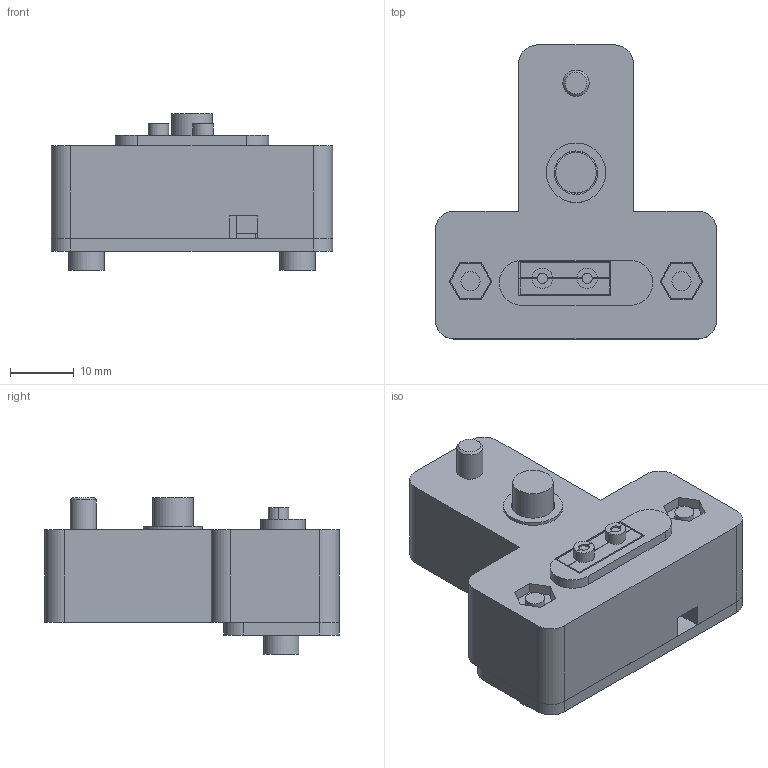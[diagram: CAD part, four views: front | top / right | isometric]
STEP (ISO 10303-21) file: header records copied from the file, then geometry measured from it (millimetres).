
FILE_DESCRIPTION(('Open CASCADE Model'),'2;1');
FILE_NAME('Open CASCADE Shape Model','2026-10-19T15:26:06',('Author'),( 'Open CASCADE'),'Open CASCADE STEP processor 7.9','Open CASCADE 7.9' ,'Unknown');
FILE_SCHEMA(('AUTOMOTIVE_DESIGN { 1 0 10303 214 1 1 1 1 }'));
Length unit declared in the file: millimetre
Products named in the file (12): ELTS_VIVE_Tracker_3_Trigger_Connector_Rev_B_Fixed_Base; body; insert_front; insert_rear; wire_cover; contact_2_ground; contact_4_trigger; mount_screw_reference; cover_screw_left_reference; cover_nut_left_reference; cover_screw_right_reference; cover_nut_right_reference
Assembly tree (11 placements, depth 2):
  ELTS_VIVE_Tracker_3_Trigger_Connector_Rev_B_Fixed_Base
    body
    insert_front
    insert_rear
    wire_cover
    contact_2_ground
    contact_4_trigger
    mount_screw_reference
    cover_screw_left_reference
    cover_nut_left_reference
    cover_screw_right_reference
    cover_nut_right_reference
Bounding box: 44 x 46 x 24.5 mm (x, y, z)
Volume: 16954.6 mm3; surface area: 11912.2 mm2
Topology: 11 solids, 11 shells, 240 faces, 598 edges, 398 vertices
Faces by surface type: plane 174, cylinder 65, cone 1
Full cylindrical faces by diameter (mm): 0.9 x2, 1.5 x2, 2 x2, 3 x4, 3.4 x4, 4.1 x1, 5.5 x2, 6.35 x1, 6.8 x1, 9.3 x1, 10.8 x1, 11.8 x1
Entity records: 15000 total; most frequent: CARTESIAN_POINT 3098, DIRECTION 2020, ORIENTED_EDGE 1196, PCURVE 1196, DEFINITIONAL_REPRESENTATION 1196, LINE 1173, VECTOR 1173, EDGE_CURVE 598
